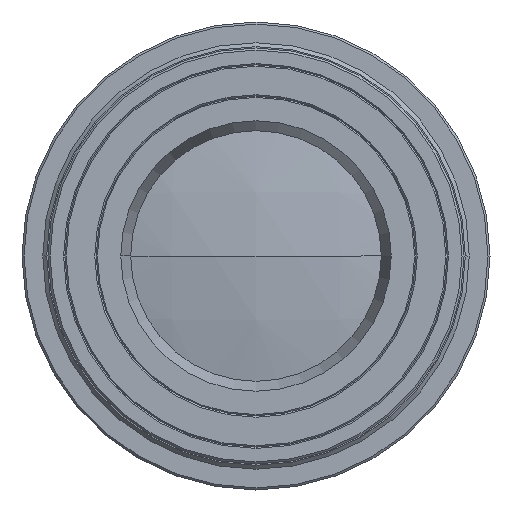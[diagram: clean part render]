
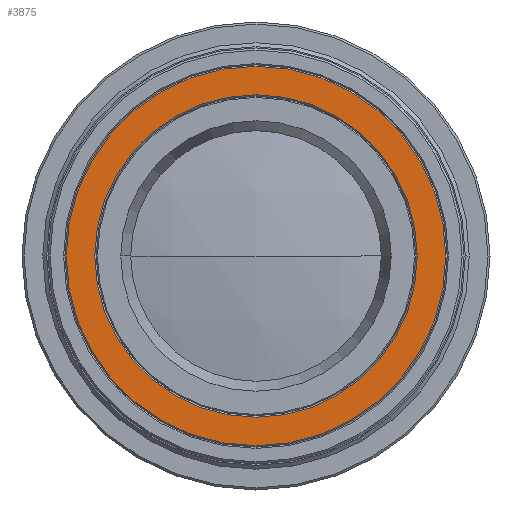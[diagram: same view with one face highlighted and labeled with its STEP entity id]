
A CAD part, left-side view. The second image highlights one B-rep face of the part: STEP entity #3875.
In plain terms, the highlighted planar face has unit normal (-1, 0, 0).
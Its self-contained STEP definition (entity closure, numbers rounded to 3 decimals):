
#119 = CARTESIAN_POINT ( 'NONE',  ( -1.49, 15.5, 0. ) ) ;
#287 = CARTESIAN_POINT ( 'NONE',  ( -1.49, 0., 0. ) ) ;
#542 = DIRECTION ( 'NONE',  ( -1., 0., 0. ) ) ;
#604 = CARTESIAN_POINT ( 'NONE',  ( -1.49, 18.25, 0. ) ) ;
#615 = EDGE_CURVE ( 'NONE', #4549, #6211, #3515, .T. ) ;
#751 = EDGE_CURVE ( 'NONE', #5583, #3417, #1789, .T. ) ;
#1269 = CARTESIAN_POINT ( 'NONE',  ( -1.49, 0., 0. ) ) ;
#1332 = DIRECTION ( 'NONE',  ( -1., 0., 0. ) ) ;
#1422 = PLANE ( 'NONE',  #4489 ) ;
#1722 = CARTESIAN_POINT ( 'NONE',  ( -1.49, -18.25, 0. ) ) ;
#1789 = CIRCLE ( 'NONE', #2411, 18.25 ) ;
#1901 = DIRECTION ( 'NONE',  ( -1., 0., 0. ) ) ;
#2262 = FACE_BOUND ( 'NONE', #5584, .T. ) ;
#2329 = DIRECTION ( 'NONE',  ( 1., 0., 0. ) ) ;
#2406 = EDGE_CURVE ( 'NONE', #6211, #4549, #4851, .T. ) ;
#2411 = AXIS2_PLACEMENT_3D ( 'NONE', #3899, #542, #6361 ) ;
#3396 = CARTESIAN_POINT ( 'NONE',  ( -1.49, 15.5, 0. ) ) ;
#3417 = VERTEX_POINT ( 'NONE', #1722 ) ;
#3515 = CIRCLE ( 'NONE', #4543, 15.5 ) ;
#3711 = AXIS2_PLACEMENT_3D ( 'NONE', #1269, #1332, #5731 ) ;
#3720 = CARTESIAN_POINT ( 'NONE',  ( -1.49, 0., 0. ) ) ;
#3749 = EDGE_LOOP ( 'NONE', ( #5821, #5774 ) ) ;
#3853 = DIRECTION ( 'NONE',  ( 0., -1., 0. ) ) ;
#3867 = DIRECTION ( 'NONE',  ( 0., -1., 0. ) ) ;
#3875 = ADVANCED_FACE ( 'NONE', ( #2262, #5854 ), #1422, .F. ) ;
#3899 = CARTESIAN_POINT ( 'NONE',  ( -1.49, 0., 0. ) ) ;
#3988 = CIRCLE ( 'NONE', #4399, 18.25 ) ;
#4299 = DIRECTION ( 'NONE',  ( 0., 1., 0. ) ) ;
#4399 = AXIS2_PLACEMENT_3D ( 'NONE', #3720, #6216, #3853 ) ;
#4489 = AXIS2_PLACEMENT_3D ( 'NONE', #3396, #2329, #4299 ) ;
#4543 = AXIS2_PLACEMENT_3D ( 'NONE', #287, #1901, #3867 ) ;
#4549 = VERTEX_POINT ( 'NONE', #119 ) ;
#4634 = CARTESIAN_POINT ( 'NONE',  ( -1.49, -15.5, 0. ) ) ;
#4851 = CIRCLE ( 'NONE', #3711, 15.5 ) ;
#5446 = ORIENTED_EDGE ( 'NONE', *, *, #2406, .F. ) ;
#5583 = VERTEX_POINT ( 'NONE', #604 ) ;
#5584 = EDGE_LOOP ( 'NONE', ( #5446, #5732 ) ) ;
#5731 = DIRECTION ( 'NONE',  ( 0., -1., 0. ) ) ;
#5732 = ORIENTED_EDGE ( 'NONE', *, *, #615, .F. ) ;
#5774 = ORIENTED_EDGE ( 'NONE', *, *, #6278, .T. ) ;
#5821 = ORIENTED_EDGE ( 'NONE', *, *, #751, .T. ) ;
#5854 = FACE_OUTER_BOUND ( 'NONE', #3749, .T. ) ;
#6211 = VERTEX_POINT ( 'NONE', #4634 ) ;
#6216 = DIRECTION ( 'NONE',  ( -1., 0., 0. ) ) ;
#6278 = EDGE_CURVE ( 'NONE', #3417, #5583, #3988, .T. ) ;
#6361 = DIRECTION ( 'NONE',  ( 0., -1., 0. ) ) ;
